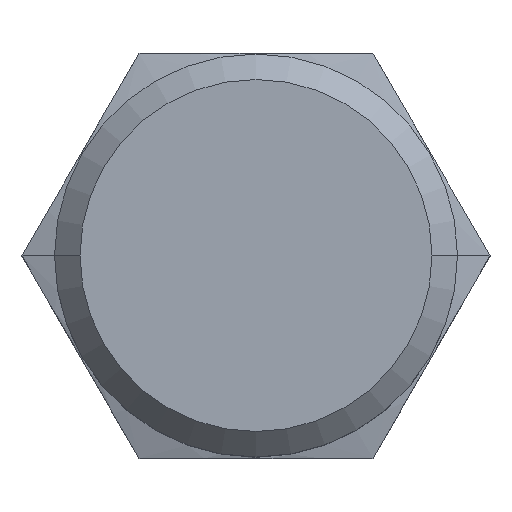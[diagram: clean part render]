
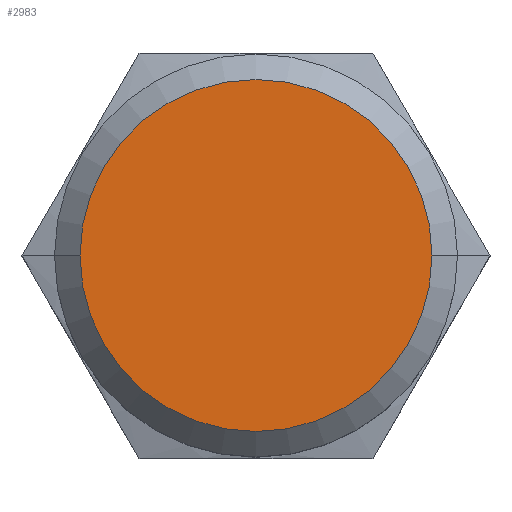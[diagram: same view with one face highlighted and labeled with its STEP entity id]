
A CAD part, top view. The second image highlights one B-rep face of the part: STEP entity #2983.
In plain terms, the highlighted planar face has unit normal (0, 0, 1).
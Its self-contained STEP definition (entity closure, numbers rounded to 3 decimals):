
#1137=CARTESIAN_POINT('',(0.,0.,20.371));
#1138=DIRECTION('',(0.,0.,-1.));
#1139=DIRECTION('',(-1.,0.,0.));
#1140=AXIS2_PLACEMENT_3D('',#1137,#1138,#1139);
#1142=CARTESIAN_POINT('',(0.,0.,20.371));
#1143=DIRECTION('',(0.,0.,-1.));
#1144=DIRECTION('',(1.,0.,0.));
#1145=AXIS2_PLACEMENT_3D('',#1142,#1143,#1144);
#1429=CARTESIAN_POINT('',(-9.652,0.,20.371));
#1430=CARTESIAN_POINT('',(9.652,0.,20.371));
#1431=VERTEX_POINT('',#1429);
#1432=VERTEX_POINT('',#1430);
#2973=CARTESIAN_POINT('',(0.,0.,20.371));
#2974=DIRECTION('',(0.,0.,1.));
#2975=DIRECTION('',(1.,0.,0.));
#2976=AXIS2_PLACEMENT_3D('',#2973,#2974,#2975);
#2977=PLANE('',#2976);
#2978=ORIENTED_EDGE('',*,*,#2963,.T.);
#2980=ORIENTED_EDGE('',*,*,#2979,.T.);
#2981=EDGE_LOOP('',(#2978,#2980));
#2982=FACE_OUTER_BOUND('',#2981,.F.);
#2983=ADVANCED_FACE('',(#2982),#2977,.T.);
#1141=CIRCLE('',#1140,9.652);
#1146=CIRCLE('',#1145,9.652);
#2963=EDGE_CURVE('',#1431,#1432,#1141,.T.);
#2979=EDGE_CURVE('',#1432,#1431,#1146,.T.);
